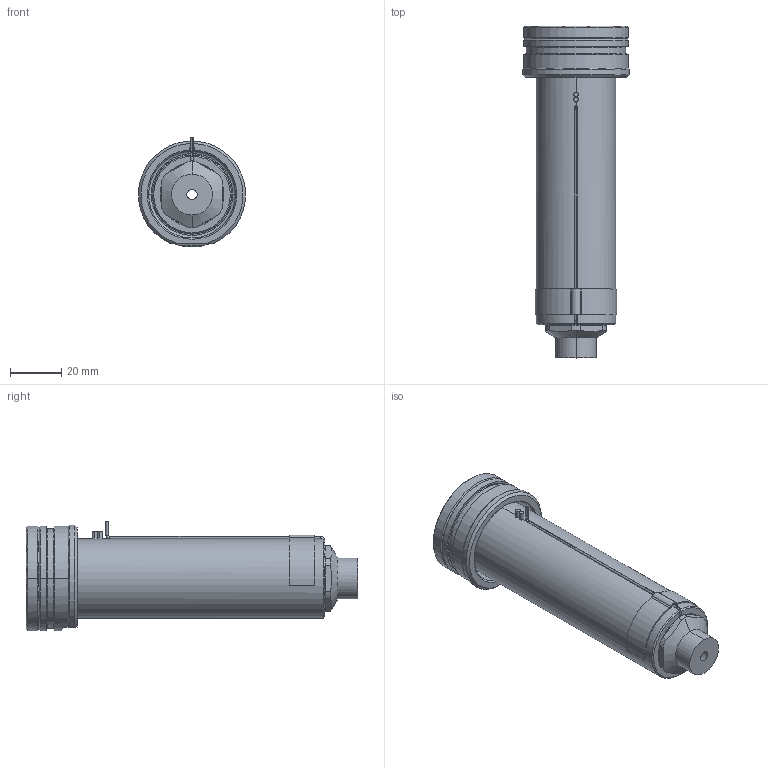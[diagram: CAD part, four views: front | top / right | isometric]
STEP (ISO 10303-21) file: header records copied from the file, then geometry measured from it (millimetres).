
FILE_DESCRIPTION((''),'2;1');
FILE_NAME('EO12_VG-FB_WR_110_SW','2024-02-19T13:40:35',('sundharh'),(''),'CREO PARAMETRIC BY PTC INC, 2023154','CREO PARAMETRIC BY PTC INC, 2023154','');
FILE_SCHEMA(('CONFIG_CONTROL_DESIGN'));
Length unit declared in the file: millimetre
Products named in the file (1): EO12_VG-FB_WR_110_SW
Bounding box: 41.85 x 130 x 43 mm (x, y, z)
Volume: 87042.4 mm3; surface area: 25336.4 mm2
Topology: 2 solids, 3 shells, 210 faces, 519 edges, 314 vertices
Faces by surface type: cylinder 73, plane 48, cone 41, torus 37, bspline 9, sphere 2
Entity records: 7086 total; most frequent: CARTESIAN_POINT 1985, DIRECTION 1142, ORIENTED_EDGE 1034, EDGE_CURVE 517, AXIS2_PLACEMENT_3D 483, VERTEX_POINT 314, CIRCLE 282, EDGE_LOOP 227
